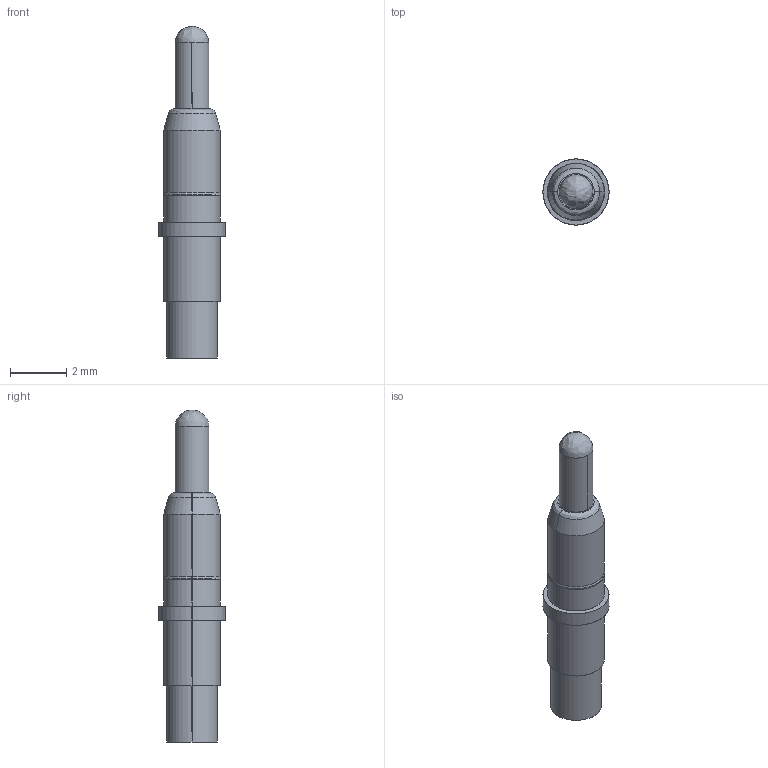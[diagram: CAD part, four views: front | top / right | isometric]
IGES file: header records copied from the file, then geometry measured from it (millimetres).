
Start section: SolidWorks IGES file using analytic representation for surfaces
Global section: file name: F:\OneDrive\Desktop\Coda\22.7\Back Fitment Completed\PD14 RTP\PD14JLT-SP.IGS; native system: SolidWorks 2021; preprocessor: SolidWorks 2021; author: Georg; date: 210722.145036; units: millimetre
Bounding box: 2.35 x 2.35 x 11.8 mm (x, y, z)
Surface area: 96.5 mm2 (no closed solid volume)
Topology: 0 solids, 0 shells, 36 faces, 492 edges, 490 vertices
Faces by surface type: revolution 24, bspline 12
